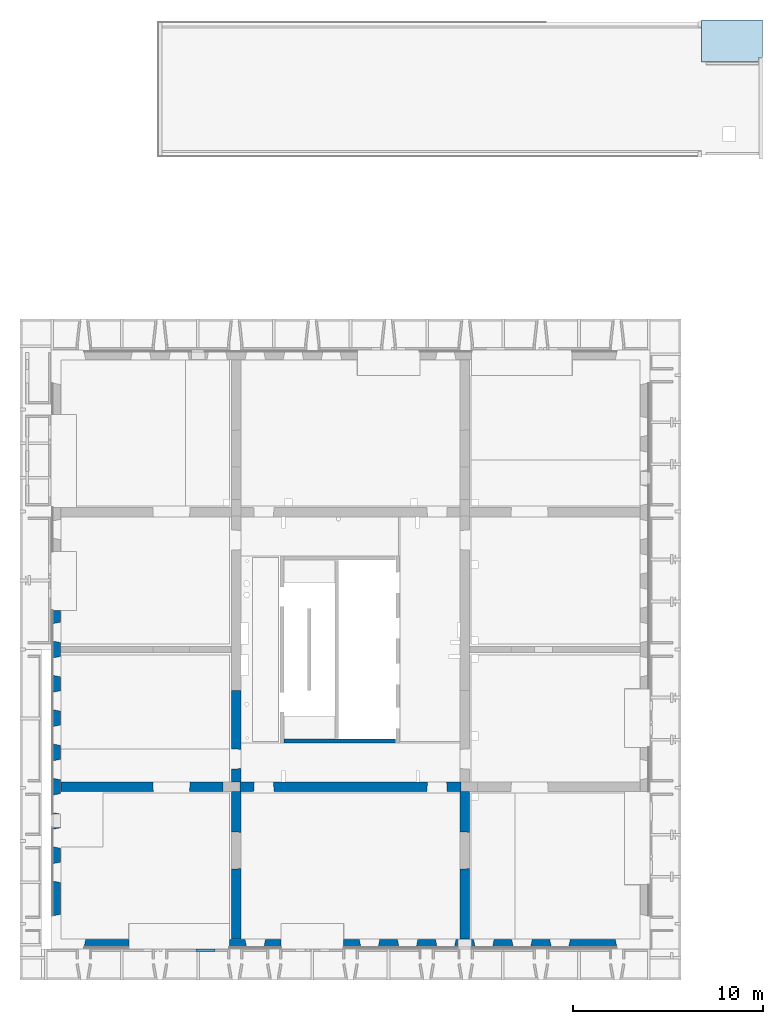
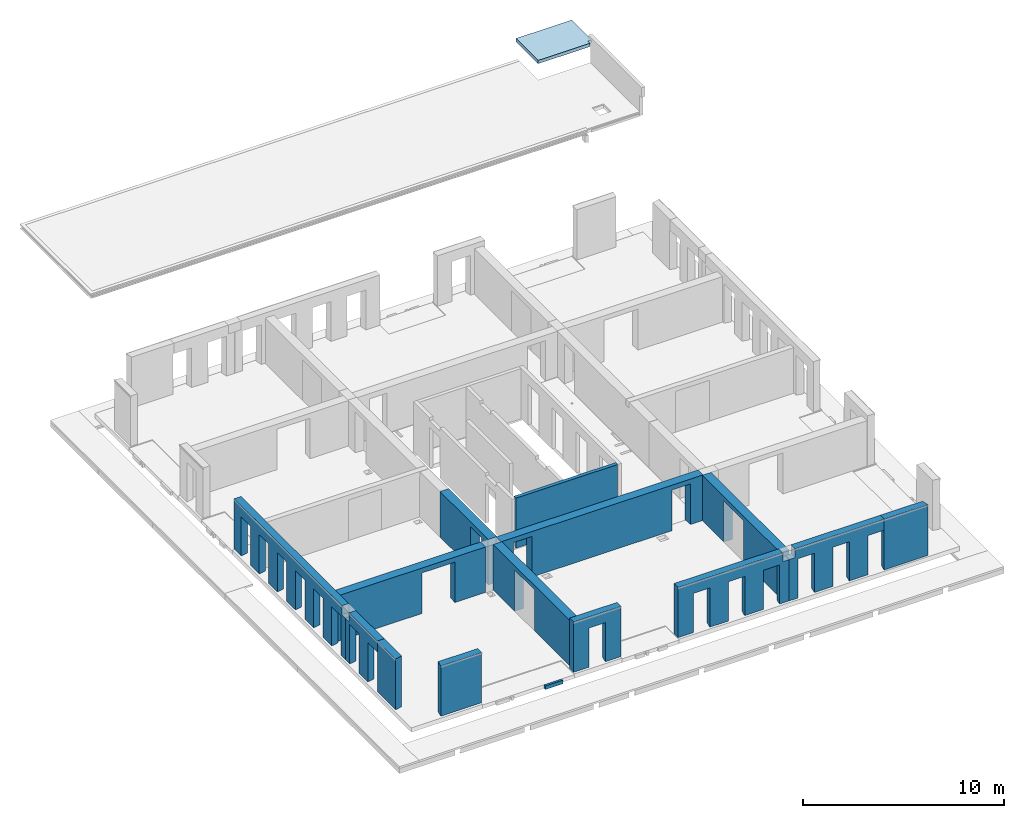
# One storey, part 21 of 27: 15 walls, 1 slab, 32 openings.
"""IFC2X3 building model written with IfcOpenShell, lengths in millimetres."""

from ifc_helpers import new_model, entity, si_unit, converted_unit, derived_unit, direction, frame, frame_2d, origin, origin_2d_with_axis, place, context, subcontext, project, spatial, polyline, rectangle, outline, extrude, faceted_brep, material, layer, layer_set, layer_usage, type_object, element, save


model = new_model("IFC2X3")

# Units and contexts
model_context = context("Model", 3, precision=0.01, world=origin(), true_north=direction((6.12303176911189e-17, 1.0)))
body_context = subcontext(model_context, "Body", "Model", "MODEL_VIEW")
ifc_project = project(units=[si_unit("LENGTHUNIT", "METRE", prefix="MILLI"), si_unit("AREAUNIT", "SQUARE_METRE"), si_unit("VOLUMEUNIT", "CUBIC_METRE"), converted_unit("PLANEANGLEUNIT", "DEGREE", entity("IfcRatioMeasure", 0.0174532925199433), si_unit("PLANEANGLEUNIT", "RADIAN"), dimensions=[0, 0, 0, 0, 0, 0, 0]), si_unit("MASSUNIT", "GRAM", prefix="KILO"), derived_unit("MASSDENSITYUNIT", [(si_unit("MASSUNIT", "GRAM", prefix="KILO"), 1), (si_unit("LENGTHUNIT", "METRE"), -3)]), si_unit("TIMEUNIT", "SECOND"), si_unit("FREQUENCYUNIT", "HERTZ"), si_unit("THERMODYNAMICTEMPERATUREUNIT", "DEGREE_CELSIUS"), derived_unit("THERMALTRANSMITTANCEUNIT", [(si_unit("MASSUNIT", "GRAM", prefix="KILO"), 1), (si_unit("THERMODYNAMICTEMPERATUREUNIT", "KELVIN"), -1), (si_unit("TIMEUNIT", "SECOND"), -3)]), derived_unit("VOLUMETRICFLOWRATEUNIT", [(si_unit("LENGTHUNIT", "METRE"), 3), (si_unit("TIMEUNIT", "SECOND"), -1)]), si_unit("ELECTRICCURRENTUNIT", "AMPERE"), si_unit("ELECTRICVOLTAGEUNIT", "VOLT"), si_unit("POWERUNIT", "WATT"), si_unit("FORCEUNIT", "NEWTON", prefix="KILO"), si_unit("ILLUMINANCEUNIT", "LUX"), si_unit("LUMINOUSFLUXUNIT", "LUMEN"), si_unit("LUMINOUSINTENSITYUNIT", "CANDELA"), derived_unit("USERDEFINED", [(si_unit("MASSUNIT", "GRAM", prefix="KILO"), -1), (si_unit("LENGTHUNIT", "METRE"), -2), (si_unit("TIMEUNIT", "SECOND"), 3), (si_unit("LUMINOUSFLUXUNIT", "LUMEN"), 1)]), derived_unit("LINEARVELOCITYUNIT", [(si_unit("LENGTHUNIT", "METRE"), 1), (si_unit("TIMEUNIT", "SECOND"), -1)]), si_unit("PRESSUREUNIT", "PASCAL"), derived_unit("USERDEFINED", [(si_unit("LENGTHUNIT", "METRE"), -2), (si_unit("MASSUNIT", "GRAM", prefix="KILO"), 1), (si_unit("TIMEUNIT", "SECOND"), -2)])], contexts=[model_context])

# Site, building, storey
site_placement = place(None, origin())
site = spatial("IfcSite", under=ifc_project, at=site_placement, Name="Default", CompositionType="ELEMENT")
building_placement = place(site_placement, origin())
building = spatial("IfcBuilding", under=site, at=building_placement, Name="niet gebruiken", CompositionType="ELEMENT")
storey_placement = place(building_placement, frame((0.0, 0.0, 18000.0)))
storey = spatial("IfcBuildingStorey", under=building, at=storey_placement, Name="05 vijfde verdieping", CompositionType="ELEMENT", Elevation=18000.0)

# Slab
ifc_material_1 = material(Name="NLRS_f2_beton prefab")
ifc_layer_1 = layer(ifc_material_1, 200.0)
ifc_layer_set_1 = layer_set([ifc_layer_1], Name="Floor:NLRS_23.21_FL_beton prefab d=200_gen")
ifc_layer_usage_1 = layer_usage(ifc_layer_set_1, "AXIS3", "POSITIVE", 0.0)
slab_placement = place(storey_placement, origin())
element("IfcSlab", 1, at=slab_placement, inside=storey, material=ifc_layer_usage_1, Name="Floor:NLRS_23.21_FL_beton prefab d=200_gen", ObjectType="Floor:NLRS_23.21_FL_beton prefab d=200_gen", PredefinedType="FLOOR", context=body_context, shape_type="SweptSolid", body=[
    extrude(outline(polyline([(-806.666666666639, -2060.0), (1393.33333333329, -2060.0), (1393.33333333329, 1140.0), (-586.666666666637, 1140.0), (-586.666666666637, 920.0), (-806.666666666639, 920.0), (-806.666666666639, -2060.0)])), frame((162250.0, 49156.6666666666, 200.0), z_axis=(0.0, 0.0, -1.0), x_axis=(0.0, 1.0, 0.0)), (0.0, 0.0, 1.0), 200.0),
])

# Wall
ifc_layer_2 = layer(ifc_material_1, 200.0)
ifc_layer_set_2 = layer_set([ifc_layer_2], Name="Basic Wall:NLRS_22.21_WA_beton prefab d=200_gen")
ifc_layer_usage_2 = layer_usage(ifc_layer_set_2, "AXIS2", "NEGATIVE", 100.0)
wall_type_1 = type_object("IfcWallType", Name="Basic Wall:NLRS_22.21_WA_beton prefab d=200_gen", PredefinedType="STANDARD", material=ifc_layer_set_2)
wall_1_placement = place(storey_placement, frame((138270.0, 12700.0, -50.0)))
element("IfcWallStandardCase", 2, at=wall_1_placement, inside=storey, type_object=wall_type_1, material=ifc_layer_usage_2, Name="Basic Wall:NLRS_22.21_WA_beton prefab d=200_gen", ObjectType="Basic Wall:NLRS_22.21_WA_beton prefab d=200_gen", context=body_context, shape_type="SweptSolid", body=[
    extrude(rectangle(XDim=5839.99999999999, YDim=199.999999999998, at=frame_2d((2919.99999999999, -6.82121026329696e-13), x_axis=(-1.0, 0.0))), origin(), (0.0, 0.0, 1.0), 3039.99999999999),
])

# Wall, opening
ifc_layer_3 = layer(ifc_material_1, 400.0)
ifc_layer_set_3 = layer_set([ifc_layer_3], Name="Basic Wall:NLRS_21.21_WA_beton prefab d=400/420_gen")
ifc_layer_usage_3 = layer_usage(ifc_layer_set_3, "AXIS2", "NEGATIVE", 200.0)
wall_type_2 = type_object("IfcWallType", Name="Basic Wall:NLRS_21.21_WA_beton prefab d=400/420_gen", PredefinedType="STANDARD", material=ifc_layer_set_3)
wall_2_placement = place(storey_placement, frame((130110.0, 2070.0, -60.0), z_axis=(0.0, 0.0, 1.0), x_axis=(-1.0, 0.0, 0.0)))
wall_2 = element("IfcWallStandardCase", 3, at=wall_2_placement, inside=storey, type_object=wall_type_2, material=ifc_layer_usage_3, Name="Basic Wall:NLRS_21.21_WA_beton prefab d=400/420_gen", ObjectType="Basic Wall:NLRS_21.21_WA_beton prefab d=400/420_gen", context=body_context, shape_type="SweptSolid", body=[
    extrude(rectangle(XDim=2330.00000000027, YDim=400.0, at=frame_2d((1165.00000000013, -4.2632564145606e-14), x_axis=(-1.0, 0.0))), origin(), (0.0, 0.0, 1.0), 3049.99999999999),
])
opening_1_placement = place(wall_2_placement, frame((2330.0, 119.0, 0.0)))
element("IfcOpeningElement", 4, at=opening_1_placement, cuts=wall_2, Name="Basic Wall:NLRS_21.21_WA_beton prefab d=400/420_gen", ObjectType="Opening", context=body_context, shape_type="Brep", body=[
    faceted_brep([(0.0, -319.0, 3050.0), (0.0, 0.0, 3050.0), (-65.0, -319.0, 3050.0), (0.0, -319.0, 0.0), (-65.0, -319.0, 0.0), (0.0, 0.0, 0.0)], [[[0, 1, 2]], [[3, 4, 5]], [[2, 4, 3, 0]], [[0, 3, 5, 1]], [[1, 5, 4, 2]]]),
])

# Wall, openings
ifc_layer_usage_4 = layer_usage(ifc_layer_set_3, "AXIS2", "NEGATIVE", 200.0)
wall_3_placement = place(storey_placement, frame((153220.0, 2070.0, -60.0), z_axis=(0.0, 0.0, 1.0), x_axis=(-1.0, 0.0, 0.0)))
wall_3 = element("IfcWallStandardCase", 5, at=wall_3_placement, inside=storey, type_object=wall_type_2, material=ifc_layer_usage_4, Name="Basic Wall:NLRS_21.21_WA_beton prefab d=400/420_gen", ObjectType="Basic Wall:NLRS_21.21_WA_beton prefab d=400/420_gen", context=body_context, shape_type="SweptSolid", body=[
    extrude(rectangle(XDim=5459.99999999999, YDim=400.0, at=frame_2d((2729.99999999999, 2.8421709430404e-14), x_axis=(-1.0, 0.0))), origin(), (0.0, 0.0, 1.0), 3050.0),
])
opening_2_placement = place(wall_3_placement, frame((3005.0, 200.0, 0.0)))
element("IfcOpeningElement", 6, at=opening_2_placement, cuts=wall_3, Name="Basic Wall:NLRS_21.21_WA_beton prefab d=400/420_gen", ObjectType="Opening", context=body_context, shape_type="Brep", body=[
    faceted_brep([(-1070.0, -400.0, 0.0), (-1070.0, -400.0, 2415.0), (-1005.0, -81.0, 2380.0), (-1005.0, -81.0, 0.0), (-1005.0, 0.0, 2380.0), (-1005.0, 0.0, 0.0), (0.0, -400.0, 2415.0), (0.0, -400.0, 0.0), (-65.0, -81.0, 2380.0), (-65.0, 0.0, 0.0), (-65.0, -81.0, 0.0), (-65.0, 0.0, 2380.0)], [[[0, 1, 2, 3]], [[4, 5, 3, 2]], [[6, 1, 0, 7]], [[1, 6, 8, 2]], [[7, 0, 3, 5, 9, 10]], [[6, 7, 10, 8]], [[11, 9, 5, 4]], [[11, 4, 2, 8]], [[9, 11, 8, 10]]]),
])
opening_3_placement = place(wall_3_placement, frame((1005.0, 200.0, 0.0)))
element("IfcOpeningElement", 7, at=opening_3_placement, cuts=wall_3, Name="Basic Wall:NLRS_21.21_WA_beton prefab d=400/420_gen", ObjectType="Opening", context=body_context, shape_type="Brep", body=[
    faceted_brep([(-1070.0, -400.0, 0.0), (-1070.0, -400.0, 2415.0), (-1005.0, -81.0, 2380.0), (-1005.0, -81.0, 0.0), (-1005.0, 0.0, 2380.0), (-1005.0, 0.0, 0.0), (0.0, -400.0, 2415.0), (0.0, -400.0, 0.0), (-65.0, -81.0, 2380.0), (-65.0, 0.0, 0.0), (-65.0, -81.0, 0.0), (-65.0, 0.0, 2380.0)], [[[0, 1, 2, 3]], [[4, 5, 3, 2]], [[6, 1, 0, 7]], [[1, 6, 8, 2]], [[7, 0, 3, 5, 9, 10]], [[6, 7, 10, 8]], [[11, 9, 5, 4]], [[11, 4, 2, 8]], [[9, 11, 8, 10]]]),
])
opening_4_placement = place(wall_3_placement, frame((5005.0, 200.0, 0.0)))
element("IfcOpeningElement", 8, at=opening_4_placement, cuts=wall_3, Name="Basic Wall:NLRS_21.21_WA_beton prefab d=400/420_gen", ObjectType="Opening", context=body_context, shape_type="Brep", body=[
    faceted_brep([(-1070.0, -400.0, 2415.0), (-1070.0, -400.0, 0.0), (0.0, -400.0, 0.0), (0.0, -400.0, 2415.0), (-65.0, -81.0, 2380.0), (-1005.0, -81.0, 2380.0), (-65.0, -81.0, 0.0), (-1005.0, -81.0, 0.0), (-1005.0, 0.0, 0.0), (-65.0, 0.0, 0.0), (-1005.0, 0.0, 2380.0), (-65.0, 0.0, 2380.0)], [[[0, 1, 2, 3]], [[3, 4, 5, 0]], [[2, 6, 4, 3]], [[1, 7, 8, 9, 6, 2]], [[0, 5, 7, 1]], [[10, 11, 9, 8]], [[10, 5, 4, 11]], [[11, 4, 6, 9]], [[8, 7, 5, 10]]]),
])
opening_5_placement = place(wall_3_placement, origin())
element("IfcOpeningElement", 9, at=opening_5_placement, cuts=wall_3, Name="Basic Wall:NLRS_21.21_WA_beton prefab d=400/420_gen", ObjectType="Opening", context=body_context, shape_type="SweptSolid", body=[
    extrude(rectangle(XDim=535.000000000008, YDim=345.000000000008, at=origin_2d_with_axis()), frame((5287.49999999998, 200.0, 2782.5), z_axis=(0.0, -1.0, 0.0), x_axis=(0.0, 0.0, 1.0)), (0.0, 0.0, 1.0), 400.0),
])

# Wall, opening
ifc_layer_usage_5 = layer_usage(ifc_layer_set_3, "AXIS2", "NEGATIVE", 200.0)
wall_4_placement = place(storey_placement, frame((138110.0, 2070.0, -60.0), z_axis=(0.0, 0.0, 1.0), x_axis=(-1.0, 0.0, 0.0)))
wall_4 = element("IfcWallStandardCase", 10, at=wall_4_placement, inside=storey, type_object=wall_type_2, material=ifc_layer_usage_5, Name="Basic Wall:NLRS_21.21_WA_beton prefab d=400/420_gen", ObjectType="Basic Wall:NLRS_21.21_WA_beton prefab d=400/420_gen", context=body_context, shape_type="SweptSolid", body=[
    extrude(rectangle(XDim=2720.00000000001, YDim=400.0, at=frame_2d((1360.0, -7.105427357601e-14), x_axis=(-1.0, 0.0))), origin(), (0.0, 0.0, 1.0), 3049.99999999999),
])
opening_6_placement = place(wall_4_placement, frame((1895.0, 200.0, 0.0)))
element("IfcOpeningElement", 11, at=opening_6_placement, cuts=wall_4, Name="Basic Wall:NLRS_21.21_WA_beton prefab d=400/420_gen", ObjectType="Opening", context=body_context, shape_type="Brep", body=[
    faceted_brep([(0.0, -400.0, 0.0), (-65.0, -81.0, 0.0), (-65.0, -81.0, 2380.0), (0.0, -400.0, 2415.0), (-65.0, 0.0, 2380.0), (-65.0, 0.0, 0.0), (-1070.0, -400.0, 2415.0), (-1070.0, -400.0, 0.0), (-1005.0, -81.0, 2380.0), (-1005.0, -81.0, 0.0), (-1005.0, 0.0, 0.0), (-1005.0, 0.0, 2380.0)], [[[0, 1, 2, 3]], [[4, 2, 1, 5]], [[6, 7, 0, 3]], [[3, 2, 8, 6]], [[7, 9, 10, 5, 1, 0]], [[6, 8, 9, 7]], [[11, 4, 5, 10]], [[11, 8, 2, 4]], [[10, 9, 8, 11]]]),
])

# Wall, openings
ifc_layer_usage_6 = layer_usage(ifc_layer_set_3, "AXIS2", "NEGATIVE", 200.0)
wall_5_placement = place(storey_placement, frame((126320.0, 5330.0, -60.0), z_axis=(0.0, 0.0, 1.0), x_axis=(0.0, 1.0, 0.0)))
wall_5 = element("IfcWallStandardCase", 12, at=wall_5_placement, inside=storey, type_object=wall_type_2, material=ifc_layer_usage_6, Name="Basic Wall:NLRS_21.21_WA_beton prefab d=400/420_gen", ObjectType="Basic Wall:NLRS_21.21_WA_beton prefab d=400/420_gen", context=body_context, shape_type="SweptSolid", body=[
    extrude(rectangle(XDim=3170.00000000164, YDim=400.000000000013, at=frame_2d((1585.00000000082, -3.85114162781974e-12), x_axis=(-1.0, 0.0))), origin(), (0.0, 0.0, 1.0), 3050.0),
])
opening_7_placement = place(wall_5_placement, frame((-65.0, 200.0, 0.0)))
element("IfcOpeningElement", 13, at=opening_7_placement, cuts=wall_5, Name="Basic Wall:NLRS_21.21_WA_beton prefab d=400/420_gen", ObjectType="Opening", context=body_context, shape_type="Brep", body=[
    faceted_brep([(1070.0, -400.0, 0.0), (1005.0, -81.0, 0.0), (1005.0, -81.0, 2380.0), (1070.0, -400.0, 2415.0), (1005.0, 0.0, 2380.0), (1005.0, 0.0, 0.0), (0.0, -400.0, 2415.0), (0.0, -400.0, 0.0), (65.0, -81.0, 2380.0), (65.0, -81.0, 0.0), (65.0, 0.0, 0.0), (65.0, 0.0, 2380.0)], [[[0, 1, 2, 3]], [[4, 2, 1, 5]], [[6, 7, 0, 3]], [[3, 2, 8, 6]], [[7, 9, 10, 5, 1, 0]], [[6, 8, 9, 7]], [[11, 4, 5, 10]], [[11, 8, 2, 4]], [[10, 9, 8, 11]]]),
])
opening_8_placement = place(wall_5_placement, frame((1735.0, 200.0, 0.0)))
element("IfcOpeningElement", 14, at=opening_8_placement, cuts=wall_5, Name="Basic Wall:NLRS_21.21_WA_beton prefab d=400/420_gen", ObjectType="Opening", context=body_context, shape_type="Brep", body=[
    faceted_brep([(1070.0, -400.0, 0.0), (1005.0, -81.0, 0.0), (1005.0, -81.0, 2380.0), (1070.0, -400.0, 2415.0), (1005.0, 0.0, 2380.0), (1005.0, 0.0, 0.0), (0.0, -400.0, 2415.0), (0.0, -400.0, 0.0), (65.0, -81.0, 2380.0), (65.0, -81.0, 0.0), (65.0, 0.0, 0.0), (65.0, 0.0, 2380.0)], [[[0, 1, 2, 3]], [[4, 2, 1, 5]], [[6, 7, 0, 3]], [[3, 2, 8, 6]], [[7, 9, 10, 5, 1, 0]], [[6, 8, 9, 7]], [[11, 4, 5, 10]], [[11, 8, 2, 4]], [[10, 9, 8, 11]]]),
])
opening_9_placement = place(wall_5_placement, origin())
element("IfcOpeningElement", 15, at=opening_9_placement, cuts=wall_5, Name="Basic Wall:NLRS_21.21_WA_beton prefab d=400/420_gen", ObjectType="Opening", context=body_context, shape_type="SweptSolid", body=[
    extrude(rectangle(XDim=535.000000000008, YDim=345.000000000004, at=origin_2d_with_axis()), frame((2997.50000000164, 200.0, 2782.5), z_axis=(0.0, -1.0, 0.0), x_axis=(0.0, 0.0, 1.0)), (0.0, 0.0, 1.0), 400.0),
])

ifc_layer_usage_7 = layer_usage(ifc_layer_set_3, "AXIS2", "NEGATIVE", 200.0)
wall_6_placement = place(storey_placement, frame((126320.0, 8510.0, -60.0), z_axis=(0.0, 0.0, 1.0), x_axis=(0.0, 1.0, 0.0)))
wall_6 = element("IfcWallStandardCase", 16, at=wall_6_placement, inside=storey, type_object=wall_type_2, material=ifc_layer_usage_7, Name="Basic Wall:NLRS_21.21_WA_beton prefab d=400/420_gen", ObjectType="Basic Wall:NLRS_21.21_WA_beton prefab d=400/420_gen", context=body_context, shape_type="SweptSolid", body=[
    extrude(rectangle(XDim=11050.0, YDim=400.000000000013, at=frame_2d((5524.99999999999, 0.0), x_axis=(-1.0, 0.0))), origin(), (0.0, 0.0, 1.0), 3049.99999999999),
])
opening_10_placement = place(wall_6_placement, frame((9355.0, 200.0, 0.0)))
element("IfcOpeningElement", 17, at=opening_10_placement, cuts=wall_6, Name="Basic Wall:NLRS_21.21_WA_beton prefab d=400/420_gen", ObjectType="Opening", context=body_context, shape_type="Brep", body=[
    faceted_brep([(1070.0, -400.0, 0.0), (1005.0, -81.0, 0.0), (1005.0, -81.0, 2380.0), (1070.0, -400.0, 2415.0), (1005.0, 0.0, 2380.0), (1005.0, 0.0, 0.0), (0.0, -400.0, 2415.0), (0.0, -400.0, 0.0), (65.0, -81.0, 2380.0), (65.0, -81.0, 0.0), (65.0, 0.0, 0.0), (65.0, 0.0, 2380.0)], [[[0, 1, 2, 3]], [[4, 2, 1, 5]], [[6, 7, 0, 3]], [[3, 2, 8, 6]], [[7, 9, 10, 5, 1, 0]], [[6, 8, 9, 7]], [[11, 4, 5, 10]], [[11, 8, 2, 4]], [[10, 9, 8, 11]]]),
])
opening_11_placement = place(wall_6_placement, frame((5755.0, 200.0, 0.0)))
element("IfcOpeningElement", 18, at=opening_11_placement, cuts=wall_6, Name="Basic Wall:NLRS_21.21_WA_beton prefab d=400/420_gen", ObjectType="Opening", context=body_context, shape_type="Brep", body=[
    faceted_brep([(1070.0, -400.0, 0.0), (1005.0, -81.0, 0.0), (1005.0, -81.0, 2380.0), (1070.0, -400.0, 2415.0), (1005.0, 0.0, 2380.0), (1005.0, 0.0, 0.0), (0.0, -400.0, 2415.0), (0.0, -400.0, 0.0), (65.0, -81.0, 2380.0), (65.0, -81.0, 0.0), (65.0, 0.0, 0.0), (65.0, 0.0, 2380.0)], [[[0, 1, 2, 3]], [[4, 2, 1, 5]], [[6, 7, 0, 3]], [[3, 2, 8, 6]], [[7, 9, 10, 5, 1, 0]], [[6, 8, 9, 7]], [[11, 4, 5, 10]], [[11, 8, 2, 4]], [[10, 9, 8, 11]]]),
])
opening_12_placement = place(wall_6_placement, frame((3955.0, 200.0, 0.0)))
element("IfcOpeningElement", 19, at=opening_12_placement, cuts=wall_6, Name="Basic Wall:NLRS_21.21_WA_beton prefab d=400/420_gen", ObjectType="Opening", context=body_context, shape_type="Brep", body=[
    faceted_brep([(1070.0, -400.0, 0.0), (1005.0, -81.0, 0.0), (1005.0, -81.0, 2380.0), (1070.0, -400.0, 2415.0), (1005.0, 0.0, 2380.0), (1005.0, 0.0, 0.0), (0.0, -400.0, 2415.0), (0.0, -400.0, 0.0), (65.0, -81.0, 2380.0), (65.0, -81.0, 0.0), (65.0, 0.0, 0.0), (65.0, 0.0, 2380.0)], [[[0, 1, 2, 3]], [[4, 2, 1, 5]], [[6, 7, 0, 3]], [[3, 2, 8, 6]], [[7, 9, 10, 5, 1, 0]], [[6, 8, 9, 7]], [[11, 4, 5, 10]], [[11, 8, 2, 4]], [[10, 9, 8, 11]]]),
])
opening_13_placement = place(wall_6_placement, frame((7555.0, 200.0, 0.0)))
element("IfcOpeningElement", 20, at=opening_13_placement, cuts=wall_6, Name="Basic Wall:NLRS_21.21_WA_beton prefab d=400/420_gen", ObjectType="Opening", context=body_context, shape_type="Brep", body=[
    faceted_brep([(1070.0, -400.0, 0.0), (1005.0, -81.0, 0.0), (1005.0, -81.0, 2380.0), (1070.0, -400.0, 2415.0), (1005.0, 0.0, 2380.0), (1005.0, 0.0, 0.0), (0.0, -400.0, 2415.0), (0.0, -400.0, 0.0), (65.0, -81.0, 2380.0), (65.0, -81.0, 0.0), (65.0, 0.0, 0.0), (65.0, 0.0, 2380.0)], [[[0, 1, 2, 3]], [[4, 2, 1, 5]], [[6, 7, 0, 3]], [[3, 2, 8, 6]], [[7, 9, 10, 5, 1, 0]], [[6, 8, 9, 7]], [[11, 4, 5, 10]], [[11, 8, 2, 4]], [[10, 9, 8, 11]]]),
])
opening_14_placement = place(wall_6_placement, frame((2155.0, 200.0, 0.0)))
element("IfcOpeningElement", 21, at=opening_14_placement, cuts=wall_6, Name="Basic Wall:NLRS_21.21_WA_beton prefab d=400/420_gen", ObjectType="Opening", context=body_context, shape_type="Brep", body=[
    faceted_brep([(0.0, -400.0, 2415.0), (0.0, -400.0, 0.0), (1070.0, -400.0, 0.0), (1070.0, -400.0, 2415.0), (1005.0, -81.0, 2380.0), (65.0, -81.0, 2380.0), (1005.0, -81.0, 0.0), (65.0, -81.0, 0.0), (65.0, 0.0, 0.0), (1005.0, 0.0, 0.0), (65.0, 0.0, 2380.0), (1005.0, 0.0, 2380.0)], [[[0, 1, 2, 3]], [[3, 4, 5, 0]], [[2, 6, 4, 3]], [[1, 7, 8, 9, 6, 2]], [[0, 5, 7, 1]], [[10, 11, 9, 8]], [[10, 5, 4, 11]], [[11, 4, 6, 9]], [[8, 7, 5, 10]]]),
])
opening_15_placement = place(wall_6_placement, frame((355.0, 200.0, 0.0)))
element("IfcOpeningElement", 22, at=opening_15_placement, cuts=wall_6, Name="Basic Wall:NLRS_21.21_WA_beton prefab d=400/420_gen", ObjectType="Opening", context=body_context, shape_type="Brep", body=[
    faceted_brep([(0.0, -400.0, 2415.0), (0.0, -400.0, 0.0), (1070.0, -400.0, 0.0), (1070.0, -400.0, 2415.0), (1005.0, -81.0, 2380.0), (65.0, -81.0, 2380.0), (1005.0, -81.0, 0.0), (65.0, -81.0, 0.0), (65.0, 0.0, 0.0), (1005.0, 0.0, 0.0), (65.0, 0.0, 2380.0), (1005.0, 0.0, 2380.0)], [[[0, 1, 2, 3]], [[3, 4, 5, 0]], [[2, 6, 4, 3]], [[1, 7, 8, 9, 6, 2]], [[0, 5, 7, 1]], [[10, 11, 9, 8]], [[10, 5, 4, 11]], [[11, 4, 6, 9]], [[8, 7, 5, 10]]]),
])
opening_16_placement = place(wall_6_placement, origin())
element("IfcOpeningElement", 23, at=opening_16_placement, cuts=wall_6, Name="Basic Wall:NLRS_21.21_WA_beton prefab d=400/420_gen", ObjectType="Opening", context=body_context, shape_type="SweptSolid", body=[
    extrude(rectangle(XDim=535.0, YDim=344.999999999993, at=frame_2d((1.09423581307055e-12, 0.0), x_axis=(0.0, 1.0))), frame((172.499999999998, 200.0, 2782.49999999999), z_axis=(0.0, -1.0, 0.0), x_axis=(-1.0, 0.0, 0.0)), (0.0, 0.0, 1.0), 400.0),
])

ifc_layer_usage_8 = layer_usage(ifc_layer_set_3, "AXIS2", "NEGATIVE", 200.0)
wall_7_placement = place(storey_placement, frame((147740.0, 2070.0, -60.0), z_axis=(0.0, 0.0, 1.0), x_axis=(-1.0, 0.0, 0.0)))
wall_7 = element("IfcWallStandardCase", 24, at=wall_7_placement, inside=storey, type_object=wall_type_2, material=ifc_layer_usage_8, Name="Basic Wall:NLRS_21.21_WA_beton prefab d=400/420_gen", ObjectType="Basic Wall:NLRS_21.21_WA_beton prefab d=400/420_gen", context=body_context, shape_type="SweptSolid", body=[
    extrude(rectangle(XDim=6350.00000000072, YDim=400.0, at=frame_2d((3175.00000000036, 0.0), x_axis=(-1.0, 0.0))), origin(), (0.0, 0.0, 1.0), 3049.99999999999),
])
opening_17_placement = place(wall_7_placement, frame((5525.0, 200.0, 0.0)))
element("IfcOpeningElement", 25, at=opening_17_placement, cuts=wall_7, Name="Basic Wall:NLRS_21.21_WA_beton prefab d=400/420_gen", ObjectType="Opening", context=body_context, shape_type="Brep", body=[
    faceted_brep([(-1070.0, -400.0, 0.0), (-1070.0, -400.0, 2415.0), (-1005.0, -81.0, 2380.0), (-1005.0, -81.0, 0.0), (-1005.0, 0.0, 2380.0), (-1005.0, 0.0, 0.0), (0.0, -400.0, 2415.0), (0.0, -400.0, 0.0), (-65.0, -81.0, 2380.0), (-65.0, 0.0, 0.0), (-65.0, -81.0, 0.0), (-65.0, 0.0, 2380.0)], [[[0, 1, 2, 3]], [[4, 5, 3, 2]], [[6, 1, 0, 7]], [[1, 6, 8, 2]], [[7, 0, 3, 5, 9, 10]], [[6, 7, 10, 8]], [[11, 9, 5, 4]], [[11, 4, 2, 8]], [[9, 11, 8, 10]]]),
])
opening_18_placement = place(wall_7_placement, frame((3525.0, 200.0, 0.0)))
element("IfcOpeningElement", 26, at=opening_18_placement, cuts=wall_7, Name="Basic Wall:NLRS_21.21_WA_beton prefab d=400/420_gen", ObjectType="Opening", context=body_context, shape_type="Brep", body=[
    faceted_brep([(-1070.0, -400.0, 0.0), (-1070.0, -400.0, 2415.0), (-1005.0, -81.0, 2380.0), (-1005.0, -81.0, 0.0), (-1005.0, 0.0, 2380.0), (-1005.0, 0.0, 0.0), (0.0, -400.0, 2415.0), (0.0, -400.0, 0.0), (-65.0, -81.0, 2380.0), (-65.0, 0.0, 0.0), (-65.0, -81.0, 0.0), (-65.0, 0.0, 2380.0)], [[[0, 1, 2, 3]], [[4, 5, 3, 2]], [[6, 1, 0, 7]], [[1, 6, 8, 2]], [[7, 0, 3, 5, 9, 10]], [[6, 7, 10, 8]], [[11, 9, 5, 4]], [[11, 4, 2, 8]], [[9, 11, 8, 10]]]),
])
opening_19_placement = place(wall_7_placement, frame((1525.0, 200.0, 0.0)))
element("IfcOpeningElement", 27, at=opening_19_placement, cuts=wall_7, Name="Basic Wall:NLRS_21.21_WA_beton prefab d=400/420_gen", ObjectType="Opening", context=body_context, shape_type="Brep", body=[
    faceted_brep([(-1070.0, -400.0, 0.0), (-1070.0, -400.0, 2415.0), (-1005.0, -81.0, 2380.0), (-1005.0, -81.0, 0.0), (-1005.0, 0.0, 2380.0), (-1005.0, 0.0, 0.0), (0.0, -400.0, 2415.0), (0.0, -400.0, 0.0), (-65.0, -81.0, 2380.0), (-65.0, 0.0, 0.0), (-65.0, -81.0, 0.0), (-65.0, 0.0, 2380.0)], [[[0, 1, 2, 3]], [[4, 5, 3, 2]], [[6, 1, 0, 7]], [[1, 6, 8, 2]], [[7, 0, 3, 5, 9, 10]], [[6, 7, 10, 8]], [[11, 9, 5, 4]], [[11, 4, 2, 8]], [[9, 11, 8, 10]]]),
])
opening_20_placement = place(wall_7_placement, origin())
element("IfcOpeningElement", 28, at=opening_20_placement, cuts=wall_7, Name="Basic Wall:NLRS_21.21_WA_beton prefab d=400/420_gen", ObjectType="Opening", context=body_context, shape_type="SweptSolid", body=[
    extrude(rectangle(XDim=535.0, YDim=345.000000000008, at=frame_2d((0.0, 0.0), x_axis=(0.0, 1.0))), frame((172.5, 200.0, 2782.49999999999), z_axis=(0.0, -1.0, 0.0), x_axis=(-1.0, 0.0, 0.0)), (0.0, 0.0, 1.0), 400.0),
])

ifc_layer_4 = layer(ifc_material_1, 500.0)
ifc_layer_set_4 = layer_set([ifc_layer_4], Name="Basic Wall:NLRS_22.21_WA_beton prefab d=500_gen")
ifc_layer_usage_9 = layer_usage(ifc_layer_set_4, "AXIS2", "NEGATIVE", 250.0)
wall_type_3 = type_object("IfcWallType", Name="Basic Wall:NLRS_22.21_WA_beton prefab d=500_gen", PredefinedType="STANDARD", material=ifc_layer_set_4)
wall_8_placement = place(storey_placement, frame((135950.003540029, 10300.0, -60.0)))
wall_8 = element("IfcWallStandardCase", 29, at=wall_8_placement, inside=storey, type_object=wall_type_3, material=ifc_layer_usage_9, Name="Basic Wall:NLRS_22.21_WA_beton prefab d=500_gen", ObjectType="Basic Wall:NLRS_22.21_WA_beton prefab d=500_gen", context=body_context, shape_type="SweptSolid", body=[
    extrude(rectangle(XDim=11599.9964599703, YDim=499.999999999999, at=frame_2d((5799.99822998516, 1.4210854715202e-13), x_axis=(-1.0, 0.0))), origin(), (0.0, 0.0, 1.0), 2759.99999999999),
])
opening_21_placement = place(wall_8_placement, frame((9813.99645997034, -250.0, 0.0)))
element("IfcOpeningElement", 30, at=opening_21_placement, cuts=wall_8, Name="Basic Wall:NLRS_22.21_WA_beton prefab d=500_gen", ObjectType="Opening", context=body_context, shape_type="Brep", body=[
    faceted_brep([(0.0, 0.0, 2468.0), (30.0, 500.0, 2438.0), (30.0, 500.0, 0.0), (0.0, 0.0, 0.0), (1036.0, 500.0, 0.0), (1066.0, 0.0, 0.0), (1036.0, 500.0, 2438.0), (1066.0, 0.0, 2468.0)], [[[0, 1, 2, 3]], [[3, 2, 4, 5]], [[6, 4, 2, 1]], [[7, 0, 3, 5]], [[7, 6, 1, 0]], [[5, 4, 6, 7]]]),
])
opening_22_placement = place(wall_8_placement, frame((719.996459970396, -250.0, 0.0)))
element("IfcOpeningElement", 31, at=opening_22_placement, cuts=wall_8, Name="Basic Wall:NLRS_22.21_WA_beton prefab d=500_gen", ObjectType="Opening", context=body_context, shape_type="Brep", body=[
    faceted_brep([(0.0, 0.0, 2468.0), (30.0, 500.0, 2438.0), (30.0, 500.0, 0.0), (0.0, 0.0, 0.0), (1036.0, 500.0, 0.0), (1066.0, 0.0, 0.0), (1036.0, 500.0, 2438.0), (1066.0, 0.0, 2468.0)], [[[0, 1, 2, 3]], [[3, 2, 4, 5]], [[6, 4, 2, 1]], [[7, 0, 3, 5]], [[7, 6, 1, 0]], [[5, 4, 6, 7]]]),
])

# Wall, opening
ifc_layer_usage_10 = layer_usage(ifc_layer_set_4, "AXIS2", "NEGATIVE", 250.0)
wall_9_placement = place(storey_placement, frame((135750.0, 15340.0, -60.0), z_axis=(0.0, 0.0, 1.0), x_axis=(0.0, -1.0, 0.0)))
wall_9 = element("IfcWallStandardCase", 32, at=wall_9_placement, inside=storey, type_object=wall_type_3, material=ifc_layer_usage_10, Name="Basic Wall:NLRS_22.21_WA_beton prefab d=500_gen", ObjectType="Basic Wall:NLRS_22.21_WA_beton prefab d=500_gen", context=body_context, shape_type="SweptSolid", body=[
    extrude(rectangle(XDim=4789.98844925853, YDim=499.99999999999, at=frame_2d((2394.99422462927, 0.0), x_axis=(-1.0, 0.0))), origin(), (0.0, 0.0, 1.0), 2760.0),
])
opening_23_placement = place(wall_9_placement, frame((4120.0, -250.0, 0.0)))
element("IfcOpeningElement", 33, at=opening_23_placement, cuts=wall_9, Name="Basic Wall:NLRS_22.21_WA_beton prefab d=500_gen", ObjectType="Opening", context=body_context, shape_type="Brep", body=[
    faceted_brep([(-1066.0, 0.0, 2468.0), (-1036.0, 500.0, 2438.0), (-1036.0, 500.0, 0.0), (-1066.0, 0.0, 0.0), (-30.0, 500.0, 0.0), (0.0, 0.0, 0.0), (-30.0, 500.0, 2438.0), (0.0, 0.0, 2468.0)], [[[0, 1, 2, 3]], [[3, 2, 4, 5]], [[6, 4, 2, 1]], [[7, 0, 3, 5]], [[7, 6, 1, 0]], [[5, 4, 6, 7]]]),
])

ifc_layer_usage_11 = layer_usage(ifc_layer_set_4, "AXIS2", "NEGATIVE", 250.0)
wall_10_placement = place(storey_placement, frame((135750.0, 10050.0115507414, -60.0), z_axis=(0.0, 0.0, 1.0), x_axis=(0.0, -1.0, 0.0)))
wall_10 = element("IfcWallStandardCase", 34, at=wall_10_placement, inside=storey, type_object=wall_type_3, material=ifc_layer_usage_11, Name="Basic Wall:NLRS_22.21_WA_beton prefab d=500_gen", ObjectType="Basic Wall:NLRS_22.21_WA_beton prefab d=500_gen", context=body_context, shape_type="SweptSolid", body=[
    extrude(rectangle(XDim=7760.01155073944, YDim=499.99999999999, at=frame_2d((3880.00577536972, -1.08002495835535e-12), x_axis=(-1.0, 0.0))), origin(), (0.0, 0.0, 1.0), 2759.99999999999),
])
opening_24_placement = place(wall_10_placement, frame((4080.01155073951, -250.0, 0.0)))
element("IfcOpeningElement", 35, at=opening_24_placement, cuts=wall_10, Name="Basic Wall:NLRS_22.21_WA_beton prefab d=500_gen", ObjectType="Opening", context=body_context, shape_type="Brep", body=[
    faceted_brep([(-1960.0, 0.0, 2490.0), (-1930.0, 500.0, 2460.0), (-1930.0, 500.0, 0.0), (-1960.0, 0.0, 0.0), (-30.0, 500.0, 0.0), (0.0, 0.0, 0.0), (-30.0, 500.0, 2460.0), (0.0, 0.0, 2490.0)], [[[0, 1, 2, 3]], [[3, 2, 4, 5]], [[6, 4, 2, 1]], [[7, 0, 3, 5]], [[7, 6, 1, 0]], [[5, 4, 6, 7]]]),
])

ifc_layer_usage_12 = layer_usage(ifc_layer_set_4, "AXIS2", "NEGATIVE", 250.0)
wall_11_placement = place(storey_placement, frame((147750.0, 10050.0, -60.0), z_axis=(0.0, 0.0, 1.0), x_axis=(0.0, -1.0, 0.0)))
wall_11 = element("IfcWallStandardCase", 36, at=wall_11_placement, inside=storey, type_object=wall_type_3, material=ifc_layer_usage_12, Name="Basic Wall:NLRS_22.21_WA_beton prefab d=500_gen", ObjectType="Basic Wall:NLRS_22.21_WA_beton prefab d=500_gen", context=body_context, shape_type="SweptSolid", body=[
    extrude(rectangle(XDim=7759.99999999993, YDim=499.99999999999, at=frame_2d((3879.99999999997, -9.2370555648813e-13), x_axis=(-1.0, 0.0))), origin(), (0.0, 0.0, 1.0), 2759.99999999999),
])
opening_25_placement = place(wall_11_placement, frame((4080.0, -250.0, 0.0)))
element("IfcOpeningElement", 37, at=opening_25_placement, cuts=wall_11, Name="Basic Wall:NLRS_22.21_WA_beton prefab d=500_gen", ObjectType="Opening", context=body_context, shape_type="Brep", body=[
    faceted_brep([(-1960.0, 0.0, 2490.0), (-1930.0, 500.0, 2460.0), (-1930.0, 500.0, 0.0), (-1960.0, 0.0, 0.0), (-30.0, 500.0, 0.0), (0.0, 0.0, 0.0), (-30.0, 500.0, 2460.0), (0.0, 0.0, 2490.0)], [[[0, 1, 2, 3]], [[3, 2, 4, 5]], [[6, 4, 2, 1]], [[7, 0, 3, 5]], [[7, 6, 1, 0]], [[5, 4, 6, 7]]]),
])

ifc_layer_usage_13 = layer_usage(ifc_layer_set_4, "AXIS2", "NEGATIVE", 250.0)
wall_12_placement = place(storey_placement, frame((126540.0, 10300.0, -60.0)))
wall_12 = element("IfcWallStandardCase", 38, at=wall_12_placement, inside=storey, type_object=wall_type_3, material=ifc_layer_usage_13, Name="Basic Wall:NLRS_22.21_WA_beton prefab d=500_gen", ObjectType="Basic Wall:NLRS_22.21_WA_beton prefab d=500_gen", context=body_context, shape_type="SweptSolid", body=[
    extrude(rectangle(XDim=8530.00354002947, YDim=499.999999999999, at=frame_2d((4265.00177001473, 3.12638803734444e-13), x_axis=(-1.0, 0.0))), origin(), (0.0, 0.0, 1.0), 2759.99999999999),
])
opening_26_placement = place(wall_12_placement, frame((4830.0, -250.0, 0.0)))
element("IfcOpeningElement", 39, at=opening_26_placement, cuts=wall_12, Name="Basic Wall:NLRS_22.21_WA_beton prefab d=500_gen", ObjectType="Opening", context=body_context, shape_type="Brep", body=[
    faceted_brep([(0.0, 500.0, 2490.0), (0.0, 500.0, 0.0), (30.0, 0.0, 0.0), (30.0, 0.0, 2460.0), (1960.0, 500.0, 0.0), (1930.0, 0.0, 0.0), (1930.0, 0.0, 2460.0), (1960.0, 500.0, 2490.0)], [[[0, 1, 2, 3]], [[1, 4, 5, 2]], [[6, 3, 2, 5]], [[7, 4, 1, 0]], [[7, 0, 3, 6]], [[4, 7, 6, 5]]]),
])

# Wall
ifc_material_2 = material(Name="NLRS_a_isolatie")
ifc_layer_5 = layer(ifc_material_2, 120.0)
ifc_layer_set_5 = layer_set([ifc_layer_5], Name="Basic Wall:NLRS_21.10_WA_isokorf d=120_gen")
ifc_layer_usage_14 = layer_usage(ifc_layer_set_5, "AXIS2", "NEGATIVE", 60.0)
wall_type_4 = type_object("IfcWallType", Name="Basic Wall:NLRS_21.10_WA_isokorf d=120_gen", PredefinedType="STANDARD", material=ifc_layer_set_5)
wall_13_placement = place(storey_placement, frame((134645.003540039, 1710.0, -360.0), z_axis=(0.0, 0.0, 1.0), x_axis=(-1.0, 0.0, 0.0)))
element("IfcWallStandardCase", 40, at=wall_13_placement, inside=storey, type_object=wall_type_4, material=ifc_layer_usage_14, Name="Basic Wall:NLRS_21.10_WA_isokorf d=120_gen", ObjectType="Basic Wall:NLRS_21.10_WA_isokorf d=120_gen", context=body_context, shape_type="SweptSolid", body=[
    extrude(rectangle(XDim=1000.00000000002, YDim=120.0, at=frame_2d((500.000000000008, -3.5527136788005e-14), x_axis=(-1.0, 0.0))), origin(), (0.0, 0.0, 1.0), 220.000000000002),
])

# Wall, openings
ifc_material_3 = material(Name="NLRS_f2_beton ihwg")
ifc_layer_6 = layer(ifc_material_3, 400.0)
ifc_layer_set_6 = layer_set([ifc_layer_6], Name="Basic Wall:NLRS_21.21_WA_beton ihwg d=400/420_gen")
ifc_layer_usage_15 = layer_usage(ifc_layer_set_6, "AXIS2", "NEGATIVE", 200.0)
wall_type_5 = type_object("IfcWallType", Name="Basic Wall:NLRS_21.21_WA_beton ihwg d=400/420_gen", PredefinedType="STANDARD", material=ifc_layer_set_6)
wall_14_placement = place(storey_placement, frame((155720.0, 2070.0, -90.0), z_axis=(0.0, 0.0, 1.0), x_axis=(-1.0, 0.0, 0.0)))
wall_14 = element("IfcWallStandardCase", 41, at=wall_14_placement, inside=storey, type_object=wall_type_5, material=ifc_layer_usage_15, Name="Basic Wall:NLRS_21.21_WA_beton ihwg d=400/420_gen", ObjectType="Basic Wall:NLRS_21.21_WA_beton ihwg d=400/420_gen", context=body_context, shape_type="SweptSolid", body=[
    extrude(rectangle(XDim=2499.99999999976, YDim=400.0, at=frame_2d((1249.99999999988, 2.8421709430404e-14), x_axis=(-1.0, 0.0))), origin(), (0.0, 0.0, 1.0), 3079.99999999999),
])
opening_27_placement = place(wall_14_placement, frame((65.0, 119.0, 0.0)))
element("IfcOpeningElement", 42, at=opening_27_placement, cuts=wall_14, Name="Basic Wall:NLRS_21.21_WA_beton ihwg d=400/420_gen", ObjectType="Opening", context=body_context, shape_type="Brep", body=[
    faceted_brep([(-65.0, -319.0, 3080.0), (0.0, -319.0, 3080.0), (-65.0, 0.0, 3080.0), (-65.0, -319.0, 0.0), (-65.0, 0.0, 0.0), (0.0, -319.0, 0.0)], [[[0, 1, 2]], [[3, 4, 5]], [[1, 0, 3, 5]], [[0, 2, 4, 3]], [[2, 1, 5, 4]]]),
])
opening_28_placement = place(wall_14_placement, frame((3505.0, 200.0, 30.0)))
element("IfcOpeningElement", 43, at=opening_28_placement, cuts=wall_14, Name="Basic Wall:NLRS_21.21_WA_beton ihwg d=400/420_gen", ObjectType="Opening", context=body_context, shape_type="Brep", body=[
    faceted_brep([(0.0, -400.0, 2415.0), (-1070.0, -400.0, 2415.0), (-1070.0, -400.0, 0.0), (0.0, -400.0, 0.0), (-65.0, -81.0, 2380.0), (-1005.0, -81.0, 2380.0), (-1005.0, -81.0, 0.0), (-1005.0, 0.0, 0.0), (-65.0, 0.0, 0.0), (-65.0, -81.0, 0.0), (-65.0, 0.0, 2380.0), (-1005.0, 0.0, 2380.0)], [[[0, 1, 2, 3]], [[1, 0, 4, 5]], [[2, 1, 5, 6]], [[3, 2, 6, 7, 8, 9]], [[0, 3, 9, 4]], [[10, 8, 7, 11]], [[10, 11, 5, 4]], [[11, 7, 6, 5]], [[8, 10, 4, 9]]]),
])
opening_29_placement = place(wall_14_placement, frame((2500.0, 119.0, 0.0)))
element("IfcOpeningElement", 44, at=opening_29_placement, cuts=wall_14, Name="Basic Wall:NLRS_21.21_WA_beton ihwg d=400/420_gen", ObjectType="Opening", context=body_context, shape_type="Brep", body=[
    faceted_brep([(0.0, -319.0, 30.0), (0.0, 0.0, 30.0), (-65.0, -319.0, 30.0), (0.0, -319.0, 0.0), (-65.0, -319.0, 0.0), (0.0, 0.0, 0.0)], [[[0, 1, 2]], [[3, 4, 5]], [[2, 4, 3, 0]], [[0, 3, 5, 1]], [[1, 5, 4, 2]]]),
])

ifc_layer_usage_16 = layer_usage(ifc_layer_set_6, "AXIS2", "NEGATIVE", 200.0)
wall_15_placement = place(storey_placement, frame((126320.0, 3530.0, -90.0), z_axis=(0.0, 0.0, 1.0), x_axis=(0.0, 1.0, 0.0)))
wall_15 = element("IfcWallStandardCase", 45, at=wall_15_placement, inside=storey, type_object=wall_type_5, material=ifc_layer_usage_16, Name="Basic Wall:NLRS_21.21_WA_beton ihwg d=400/420_gen", ObjectType="Basic Wall:NLRS_21.21_WA_beton ihwg d=400/420_gen", context=body_context, shape_type="SweptSolid", body=[
    extrude(rectangle(XDim=1799.99999999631, YDim=400.000000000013, at=frame_2d((899.999999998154, -1.08002495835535e-12), x_axis=(-1.0, 0.0))), origin(), (0.0, 0.0, 1.0), 3079.99999999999),
])
opening_30_placement = place(wall_15_placement, frame((0.0, 119.0, 0.0)))
element("IfcOpeningElement", 46, at=opening_30_placement, cuts=wall_15, Name="Basic Wall:NLRS_21.21_WA_beton ihwg d=400/420_gen", ObjectType="Opening", context=body_context, shape_type="Brep", body=[
    faceted_brep([(0.0, -319.0, 3080.0), (65.0, -319.0, 3080.0), (0.0, 0.0, 3080.0), (0.0, -319.0, 0.0), (0.0, 0.0, 0.0), (65.0, -319.0, 0.0)], [[[0, 1, 2]], [[3, 4, 5]], [[1, 0, 3, 5]], [[0, 2, 4, 3]], [[2, 1, 5, 4]]]),
])
opening_31_placement = place(wall_15_placement, frame((1735.0, 200.0, 30.0)))
element("IfcOpeningElement", 47, at=opening_31_placement, cuts=wall_15, Name="Basic Wall:NLRS_21.21_WA_beton ihwg d=400/420_gen", ObjectType="Opening", context=body_context, shape_type="Brep", body=[
    faceted_brep([(0.0, -400.0, 2415.0), (0.0, -400.0, 0.0), (1070.0, -400.0, 0.0), (1070.0, -400.0, 2415.0), (1005.0, -81.0, 2380.0), (65.0, -81.0, 2380.0), (1005.0, -81.0, 0.0), (65.0, -81.0, 0.0), (65.0, 0.0, 0.0), (1005.0, 0.0, 0.0), (65.0, 0.0, 2380.0), (1005.0, 0.0, 2380.0)], [[[0, 1, 2, 3]], [[3, 4, 5, 0]], [[2, 6, 4, 3]], [[1, 7, 8, 9, 6, 2]], [[0, 5, 7, 1]], [[10, 11, 9, 8]], [[10, 5, 4, 11]], [[11, 4, 6, 9]], [[8, 7, 5, 10]]]),
])
opening_32_placement = place(wall_15_placement, frame((1735.0, 119.0, 0.0)))
element("IfcOpeningElement", 48, at=opening_32_placement, cuts=wall_15, Name="Basic Wall:NLRS_21.21_WA_beton ihwg d=400/420_gen", ObjectType="Opening", context=body_context, shape_type="Brep", body=[
    faceted_brep([(65.0, -319.0, 30.0), (65.0, 0.0, 30.0), (0.0, -319.0, 30.0), (65.0, -319.0, 0.0), (0.0, -319.0, 0.0), (65.0, 0.0, 0.0)], [[[0, 1, 2]], [[3, 4, 5]], [[2, 4, 3, 0]], [[0, 3, 5, 1]], [[1, 5, 4, 2]]]),
])

save(model, "model.ifc")
